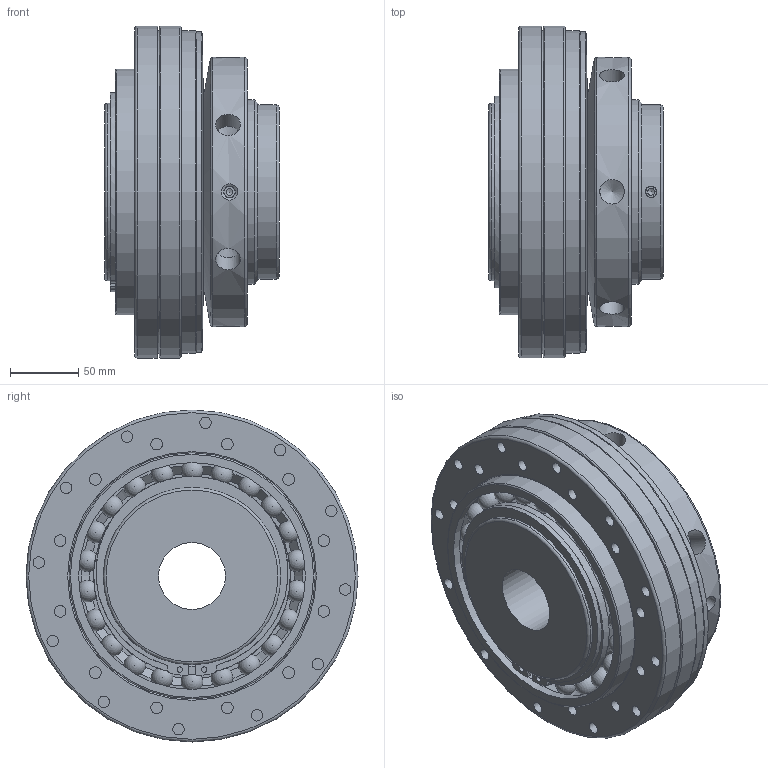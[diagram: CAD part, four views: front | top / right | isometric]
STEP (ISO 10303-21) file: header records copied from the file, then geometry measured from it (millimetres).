
FILE_DESCRIPTION(/* description */ ('Unknown'),/* implementation_level */ '2;1');
FILE_NAME(/* name */ 'SKW 3000',/* time_stamp */ '2018-01-30T13:33:10+01:00',/* author */ ('Unknown'),/* organization */ ('Unknown'),/* preprocessor_version */ 'ST-DEVELOPER v16.7',/* originating_system */ 'DEX',/* authorisation */ $);
FILE_SCHEMA (('AUTOMOTIVE_DESIGN {1 0 10303 214 3 1 1}'));
Length unit declared in the file: millimetre
Products named in the file (1): SKW 3000
Bounding box: 128 x 243 x 243 mm (x, y, z)
Volume: 3438573.9 mm3; surface area: 381116.6 mm2
Topology: 24 solids, 25 shells, 261 faces, 602 edges, 389 vertices
Faces by surface type: plane 115, cylinder 75, cone 29, sphere 22, torus 20
Full cylindrical faces by diameter (mm): 4 x2, 8.376 x16, 8.5 x14, 12 x2, 18 x6, 49 x1, 126 x1, 128 x1, 129.8 x1, 130 x2, 135 x2, 136 x1, 144 x2, 150 x1, 165 x1, 166 x2, 180 x2, 197 x1, 233.999 x2, 236 x2, 236.5 x2, 243 x2
Entity records: 6069 total; most frequent: CARTESIAN_POINT 1081, DIRECTION 1066, ORIENTED_EDGE 690, AXIS2_PLACEMENT_3D 471, FACE_BOUND 439, EDGE_LOOP 407, EDGE_CURVE 345, VERTEX_POINT 304
